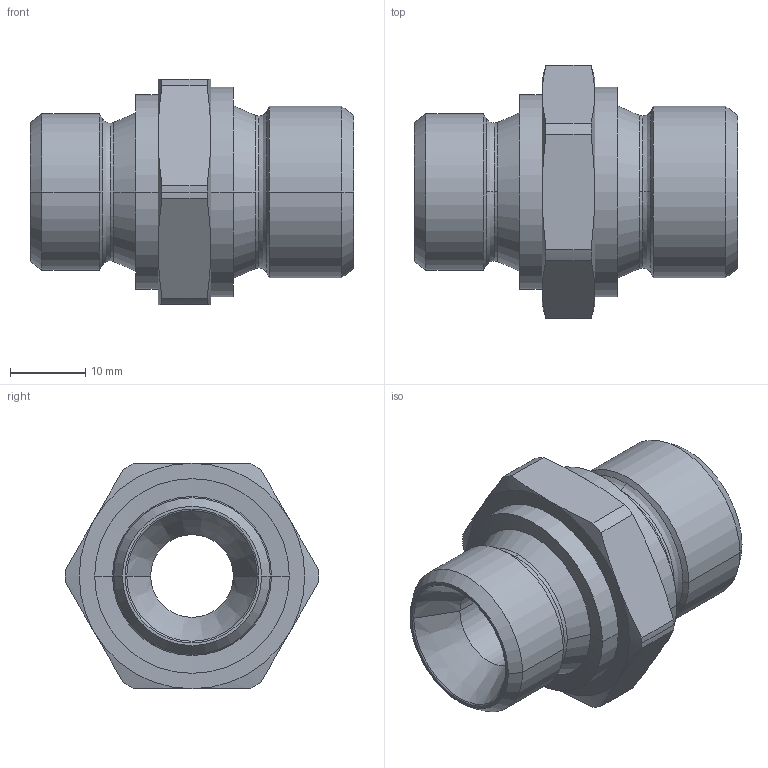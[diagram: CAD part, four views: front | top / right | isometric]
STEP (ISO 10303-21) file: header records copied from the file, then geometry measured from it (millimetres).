
FILE_DESCRIPTION((''),'2;1');
FILE_NAME('300512.stp','2006-09-11T08:11:02',(''),(''),'AutoCAD STEP 2000i','AutoCAD 2000i',', , ');
FILE_SCHEMA(('CONFIG_CONTROL_DESIGN'));
Length unit declared in the file: millimetre
Products named in the file (2): 300512.0; CHIAVE SMUSSATA#0
Assembly tree (1 placements, depth 2):
  300512.0
    CHIAVE SMUSSATA#0
Bounding box: 43 x 33.7 x 30 mm (x, y, z)
Volume: 13414.7 mm3; surface area: 6128.1 mm2
Topology: 1 solids, 1 shells, 76 faces, 178 edges, 106 vertices
Faces by surface type: cone 34, cylinder 20, plane 10, bspline 8, torus 4
Entity records: 2593 total; most frequent: CARTESIAN_POINT 762, DIRECTION 400, ORIENTED_EDGE 356, EDGE_CURVE 178, AXIS2_PLACEMENT_3D 176, VERTEX_POINT 106, CIRCLE 106, EDGE_LOOP 80
